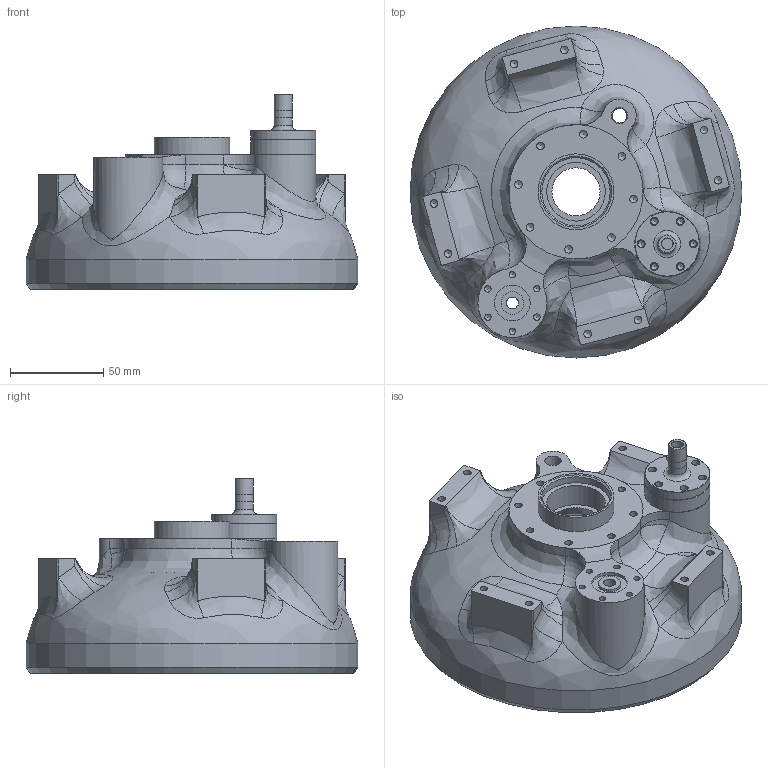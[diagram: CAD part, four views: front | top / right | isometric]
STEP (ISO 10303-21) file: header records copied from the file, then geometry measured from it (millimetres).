
FILE_DESCRIPTION(/* description */ (''),/* implementation_level */ '2;1');
FILE_NAME(/* name */ 'Check Valve Assembly.step',/* time_stamp */ '2026-05-22T17:13:51-04:00',/* author */ (''),/* organization */ (''),/* preprocessor_version */ 'ST-DEVELOPER v20.1',/* originating_system */ 'Autodesk Translation Framework v15.8.0.0',/* authorisation */ '');
FILE_SCHEMA (('AUTOMOTIVE_DESIGN { 1 0 10303 214 3 1 1 }'));
Length unit declared in the file: inch
Products named in the file (11): Check Valve Assembly; 9559K16_Ultra-Chemical-Resistant Rigid PTFE O-Ring; Check Valve Upper Body; 9559K114_Ultra-Chemical-Resistant Rigid PTFE O-Ring; 9559K61_Ultra-Chemical-Resistant Rigid PTFE O-Ring; Check Valve Lower Body; ANIMATE_PC; 9559K61_Ultra-Chemical-Resistant Rigid PTFE O-Ring_1; Knife Edge Check Valve Poppet; 96371A203_Abrasion-Resistant ePTFE Plastic Sealing Washer; Bottom End Cap
Assembly tree (10 placements, depth 3):
  Check Valve Assembly
    9559K16_Ultra-Chemical-Resistant Rigid PTFE O-Ring
    Check Valve Upper Body
      9559K114_Ultra-Chemical-Resistant Rigid PTFE O-Ring
    9559K61_Ultra-Chemical-Resistant Rigid PTFE O-Ring
    Check Valve Lower Body
    ANIMATE_PC
    9559K61_Ultra-Chemical-Resistant Rigid PTFE O-Ring_1
    Knife Edge Check Valve Poppet
    96371A203_Abrasion-Resistant ePTFE Plastic Sealing Washer
    Bottom End Cap
Bounding box: 177.8 x 177.8 x 104.41 mm (x, y, z)
Volume: 360376.8 mm3; surface area: 116084 mm2
Topology: 9 solids, 10 shells, 340 faces, 832 edges, 517 vertices
Faces by surface type: cylinder 130, bspline 73, plane 69, cone 54, torus 12, sphere 2
Full cylindrical faces by diameter (mm): 3.416 x12, 4.064 x16, 4.305 x6, 4.318 x6, 6.35 x2, 6.401 x1, 7.62 x1, 7.645 x1, 7.95 x1, 8.128 x1, 9.525 x4, 10.795 x1, 11.938 x1, 12.09 x1, 12.776 x1, 13.919 x1, 13.97 x1, 15.596 x2, 17.78 x1, 19.05 x1, 20.726 x2, 31.42 x1, 34.798 x2, 36.576 x1, 40.64 x2, 168.91 x1, 177.8 x1
Entity records: 18188 total; most frequent: CARTESIAN_POINT 10216, ORIENTED_EDGE 1598, DIRECTION 1537, EDGE_CURVE 799, AXIS2_PLACEMENT_3D 644, VERTEX_POINT 517, EDGE_LOOP 424, CIRCLE 352
